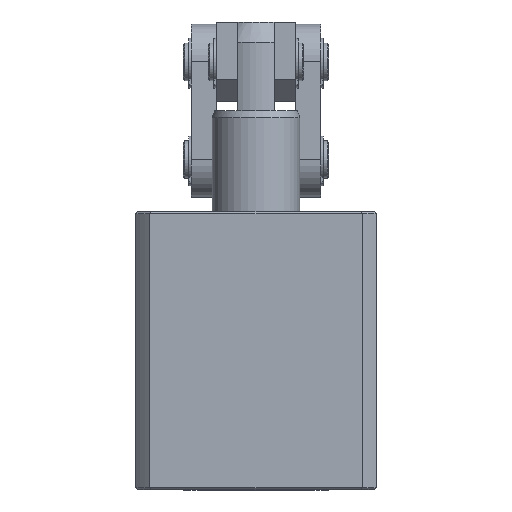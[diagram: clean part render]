
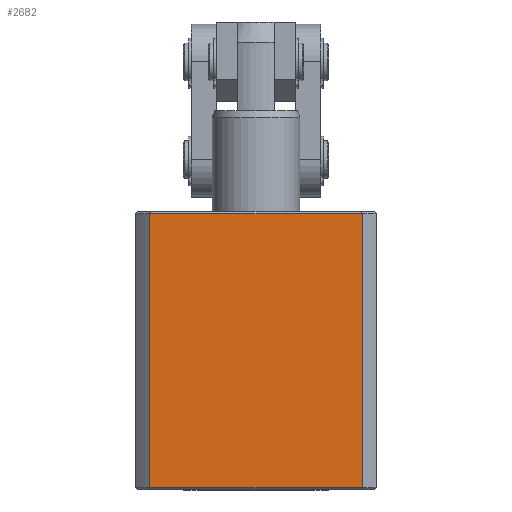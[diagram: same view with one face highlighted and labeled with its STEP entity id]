
A CAD part, left-side view. The second image highlights one B-rep face of the part: STEP entity #2682.
In plain terms, the highlighted planar face has unit normal (-1, 0, 0).
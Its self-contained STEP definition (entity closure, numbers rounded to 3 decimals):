
#304=PLANE('',#3000);
#418=LINE('',#4347,#586);
#419=LINE('',#4349,#587);
#420=LINE('',#4374,#588);
#433=LINE('',#4432,#601);
#586=VECTOR('',#3455,1000.);
#587=VECTOR('',#3458,1000.);
#588=VECTOR('',#3481,1000.);
#601=VECTOR('',#3520,1000.);
#908=ORIENTED_EDGE('',*,*,#1510,.T.);
#909=ORIENTED_EDGE('',*,*,#1487,.T.);
#910=ORIENTED_EDGE('',*,*,#1481,.F.);
#911=ORIENTED_EDGE('',*,*,#1480,.T.);
#1480=EDGE_CURVE('',#1804,#1806,#418,.T.);
#1481=EDGE_CURVE('',#1804,#1807,#419,.T.);
#1487=EDGE_CURVE('',#1808,#1807,#420,.T.);
#1510=EDGE_CURVE('',#1806,#1808,#433,.T.);
#1804=VERTEX_POINT('',#4337);
#1806=VERTEX_POINT('',#4346);
#1807=VERTEX_POINT('',#4350);
#1808=VERTEX_POINT('',#4375);
#2075=EDGE_LOOP('',(#908,#909,#910,#911));
#2365=FACE_BOUND('',#2075,.T.);
#2682=ADVANCED_FACE('',(#2365),#304,.T.);
#3000=AXIS2_PLACEMENT_3D('',#4431,#3518,#3519);
#3455=DIRECTION('',(0.,-1.,0.));
#3458=DIRECTION('',(0.,0.,1.));
#3481=DIRECTION('',(0.,1.,0.));
#3518=DIRECTION('',(-1.,0.,0.));
#3519=DIRECTION('',(0.,-1.,0.));
#3520=DIRECTION('',(0.,0.,1.));
#4337=CARTESIAN_POINT('',(-48.,42.332,0.8));
#4346=CARTESIAN_POINT('',(-48.,-42.332,0.8));
#4347=CARTESIAN_POINT('',(-48.,-42.332,0.8));
#4349=CARTESIAN_POINT('',(-48.,42.332,0.));
#4350=CARTESIAN_POINT('',(-48.,42.332,110.2));
#4374=CARTESIAN_POINT('',(-48.,42.332,110.2));
#4375=CARTESIAN_POINT('',(-48.,-42.332,110.2));
#4431=CARTESIAN_POINT('',(-48.,42.332,0.));
#4432=CARTESIAN_POINT('',(-48.,-42.332,0.));
